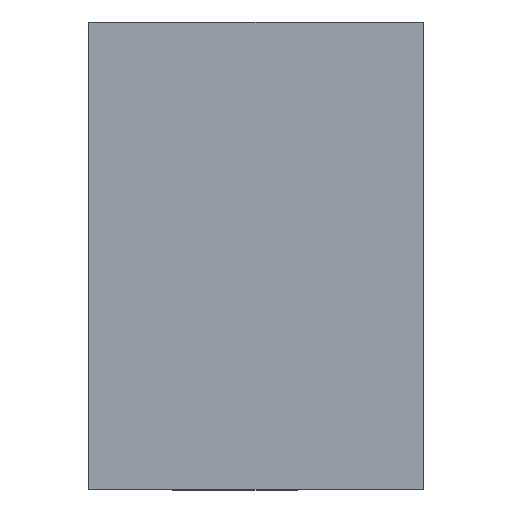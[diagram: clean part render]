
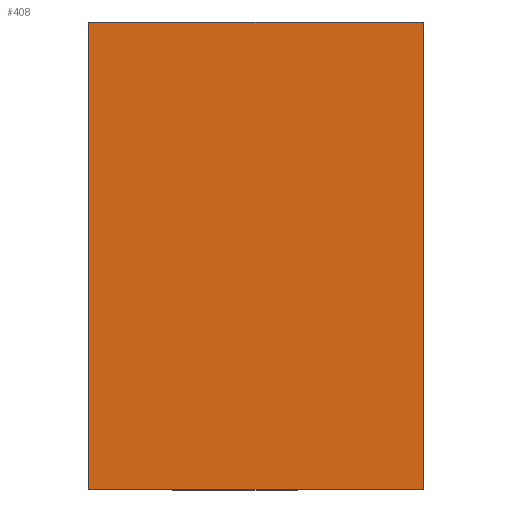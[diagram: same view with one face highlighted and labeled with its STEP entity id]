
A CAD part, front view. The second image highlights one B-rep face of the part: STEP entity #408.
In plain terms, the highlighted planar face has unit normal (0, -1, 0).
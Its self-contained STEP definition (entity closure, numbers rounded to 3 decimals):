
#11 = EDGE_CURVE ( 'NONE', #351, #99, #81, .T. ) ;
#57 = CARTESIAN_POINT ( 'NONE',  ( -0.75, 0., -0.75 ) ) ;
#74 = FACE_OUTER_BOUND ( 'NONE', #506, .T. ) ;
#76 = DIRECTION ( 'NONE',  ( 0., 1., 0. ) ) ;
#81 = LINE ( 'NONE', #197, #384 ) ;
#99 = VERTEX_POINT ( 'NONE', #406 ) ;
#134 = CARTESIAN_POINT ( 'NONE',  ( -0.75, 0., -0.75 ) ) ;
#159 = CARTESIAN_POINT ( 'NONE',  ( -0.75, 0., -0.75 ) ) ;
#170 = VECTOR ( 'NONE', #345, 1000. ) ;
#184 = ORIENTED_EDGE ( 'NONE', *, *, #11, .F. ) ;
#186 = VERTEX_POINT ( 'NONE', #291 ) ;
#187 = EDGE_CURVE ( 'NONE', #351, #186, #249, .T. ) ;
#197 = CARTESIAN_POINT ( 'NONE',  ( 0.75, 0., 1.35 ) ) ;
#226 = ORIENTED_EDGE ( 'NONE', *, *, #327, .T. ) ;
#231 = ORIENTED_EDGE ( 'NONE', *, *, #187, .T. ) ;
#239 = EDGE_CURVE ( 'NONE', #487, #99, #336, .T. ) ;
#249 = LINE ( 'NONE', #255, #498 ) ;
#255 = CARTESIAN_POINT ( 'NONE',  ( -0.75, 0., 1.35 ) ) ;
#282 = DIRECTION ( 'NONE',  ( 0., 0., -1. ) ) ;
#291 = CARTESIAN_POINT ( 'NONE',  ( -0.75, 0., 1.35 ) ) ;
#297 = AXIS2_PLACEMENT_3D ( 'NONE', #472, #76, #515 ) ;
#307 = PLANE ( 'NONE',  #297 ) ;
#325 = DIRECTION ( 'NONE',  ( -1., 0., 0. ) ) ;
#327 = EDGE_CURVE ( 'NONE', #186, #487, #342, .T. ) ;
#336 = LINE ( 'NONE', #134, #451 ) ;
#342 = LINE ( 'NONE', #57, #170 ) ;
#345 = DIRECTION ( 'NONE',  ( 0., 0., -1. ) ) ;
#351 = VERTEX_POINT ( 'NONE', #386 ) ;
#384 = VECTOR ( 'NONE', #282, 1000. ) ;
#386 = CARTESIAN_POINT ( 'NONE',  ( 0.75, 0., 1.35 ) ) ;
#406 = CARTESIAN_POINT ( 'NONE',  ( 0.75, 0., -0.75 ) ) ;
#408 = ADVANCED_FACE ( 'NONE', ( #74 ), #307, .F. ) ;
#429 = ORIENTED_EDGE ( 'NONE', *, *, #239, .T. ) ;
#447 = DIRECTION ( 'NONE',  ( 1., 0., 0. ) ) ;
#451 = VECTOR ( 'NONE', #447, 1000. ) ;
#472 = CARTESIAN_POINT ( 'NONE',  ( -0.75, 0., 1.35 ) ) ;
#487 = VERTEX_POINT ( 'NONE', #159 ) ;
#498 = VECTOR ( 'NONE', #325, 1000. ) ;
#506 = EDGE_LOOP ( 'NONE', ( #184, #231, #226, #429 ) ) ;
#515 = DIRECTION ( 'NONE',  ( 0., 0., 1. ) ) ;
